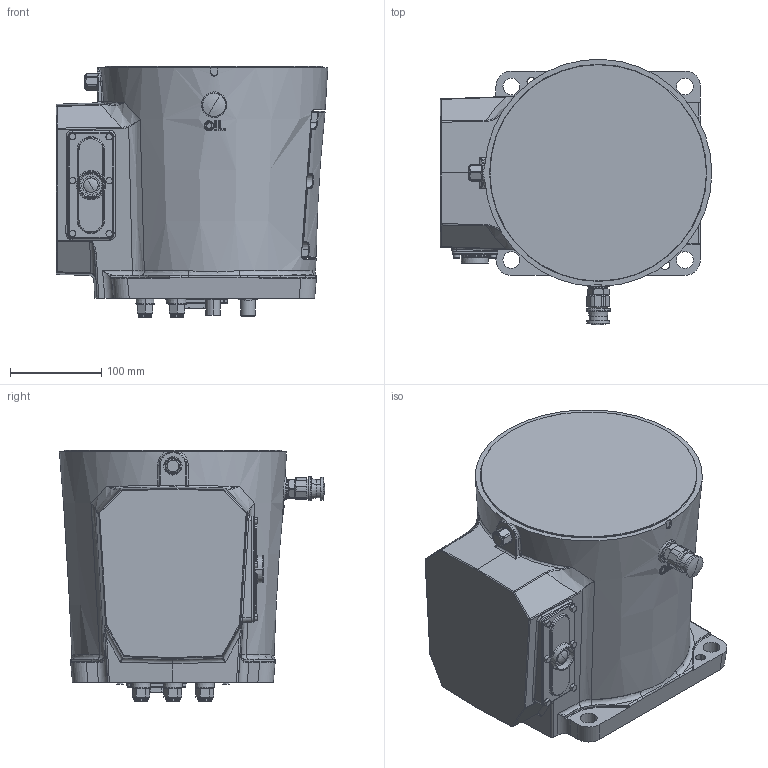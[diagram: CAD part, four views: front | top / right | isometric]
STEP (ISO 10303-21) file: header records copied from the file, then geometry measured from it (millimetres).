
FILE_DESCRIPTION (( 'STEP AP214' ), '1' );
FILE_NAME ('IRB1300 Type A_7&12Kg-1400-Foundry-BTM_OC_00_link0.STEP', '2026-05-19T12:07:21', ( '' ), ( '' ), 'SwSTEP 2.0', 'SolidWorks 2024', '' );
FILE_SCHEMA (( 'AUTOMOTIVE_DESIGN' ));
Length unit declared in the file: millimetre
Products named in the file (1): IRB1300 Type A_7&12Kg-1400-Foundry-BTM_OC_00_link0
Bounding box: 297.44 x 290.54 x 275 mm (x, y, z)
Volume: 13035236.3 mm3; surface area: 413920.5 mm2
Topology: 1 solids, 2 shells, 2484 faces, 6099 edges, 3747 vertices
Faces by surface type: plane 865, cylinder 572, bspline 571, torus 228, cone 180, sphere 68
Entity records: 99212 total; most frequent: CARTESIAN_POINT 45111, ORIENTED_EDGE 12144, DIRECTION 10082, EDGE_CURVE 6072, AXIS2_PLACEMENT_3D 3756, VERTEX_POINT 3742, EDGE_LOOP 2646, LINE 2570
